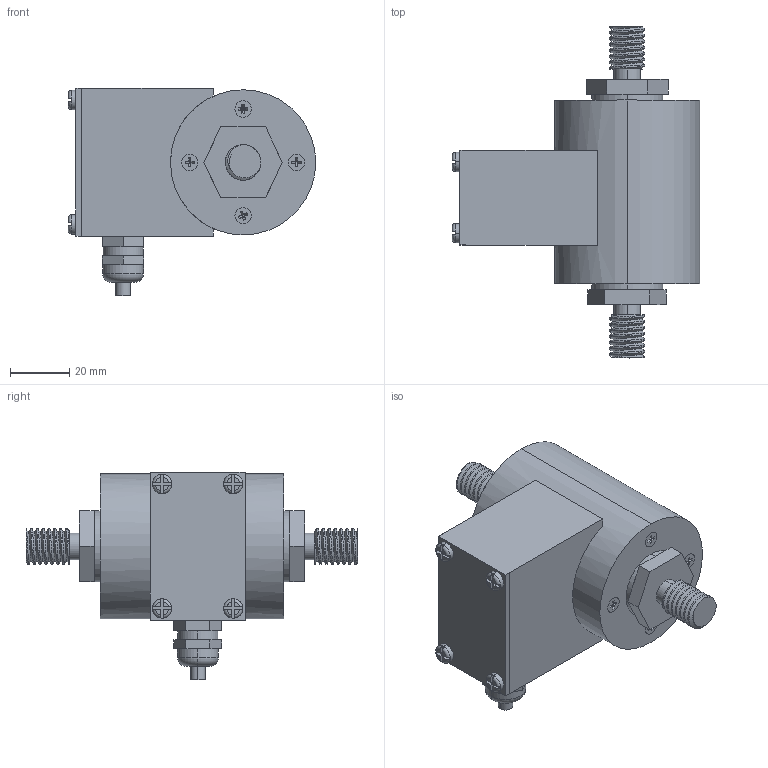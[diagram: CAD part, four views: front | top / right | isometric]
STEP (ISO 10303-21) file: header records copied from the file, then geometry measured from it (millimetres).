
FILE_DESCRIPTION (( 'STEP AP214' ), '1' );
FILE_NAME ('KT1101_K_5KN.STEP', '2014-04-24T07:17:47', ( '' ), ( '' ), 'SwSTEP 2.0', 'SolidWorks 2012', '' );
FILE_SCHEMA (( 'AUTOMOTIVE_DESIGN' ));
Length unit declared in the file: metre
Products named in the file (1): KT1101_K_5KN
Bounding box: 83.5 x 112 x 70 mm (x, y, z)
Volume: 188832 mm3; surface area: 24647.1 mm2
Topology: 1 solids, 1 shells, 258 faces, 611 edges, 381 vertices
Faces by surface type: plane 175, cylinder 61, torus 18, bspline 4
Entity records: 12176 total; most frequent: CARTESIAN_POINT 5625, ORIENTED_EDGE 1222, DIRECTION 1153, EDGE_CURVE 611, AXIS2_PLACEMENT_3D 392, VERTEX_POINT 381, LINE 369, VECTOR 369
